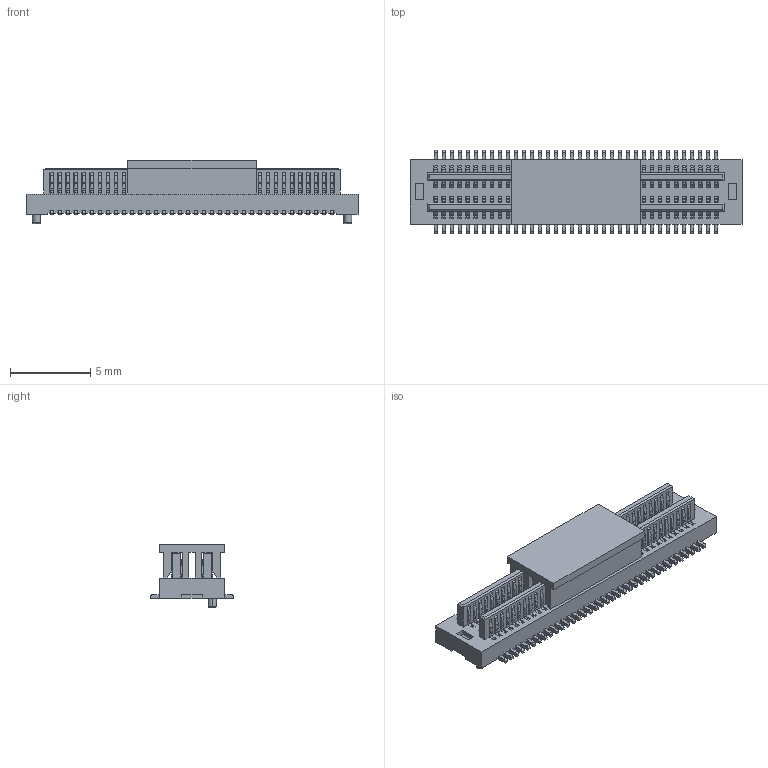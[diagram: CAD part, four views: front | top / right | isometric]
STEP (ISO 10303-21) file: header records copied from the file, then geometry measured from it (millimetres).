
FILE_DESCRIPTION(('CATIA V5 STEP Exchange'),'2;1');
FILE_NAME('F:\黄富鸿\板对板\PBB05\公座\H1.3\编带+盖\HC-PBB05-2-72-M-H1.3-G1-R-P-04（BTB0.5 双槽 公座 立贴 带柱 编带+盖）-HCTL.stp','2025-12-17T02:00:49+00:00',('none'),('none'),'CATIA Version 5 Release 20 GA (IN-10)','CATIA V5 STEP AP203','none');
FILE_SCHEMA(('CONFIG_CONTROL_DESIGN'));
Products named in the file (1): Part2
Bounding box: 20.7 x 5.2 x 3.95 mm (x, y, z)
Volume: 167.4 mm3; surface area: 1337.4 mm2
Topology: 74 solids, 74 shells, 4112 faces, 12582 edges, 8336 vertices
Faces by surface type: plane 2664, cylinder 1444, torus 4
Entity records: 120443 total; most frequent: ORIENTED_EDGE 25164, CARTESIAN_POINT 22356, DIRECTION 13440, EDGE_CURVE 12582, VECTOR 9398, LINE 9398, VERTEX_POINT 8336, EDGE_LOOP 4118
